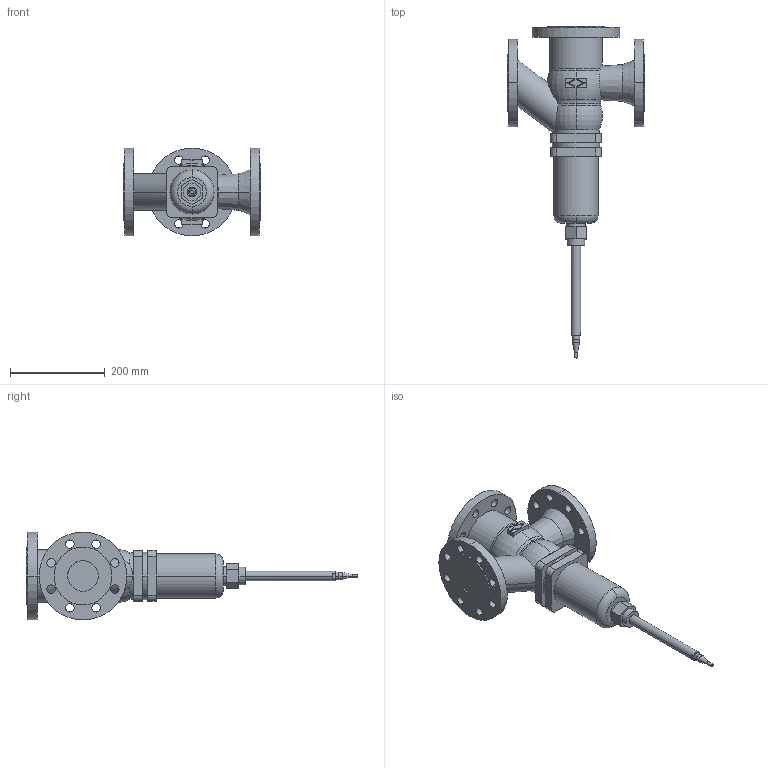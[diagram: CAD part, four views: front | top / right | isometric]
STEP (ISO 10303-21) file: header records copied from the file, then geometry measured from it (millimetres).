
FILE_DESCRIPTION( ( '' ), '1' );
FILE_NAME( 'F:/DE-SHS/TB/OR/04-Sonstiges/daten/files_3d/773-Mischventil/773-Mischventil_PN40/c000006183.stp', '2016-04-11T09:10:49', ( '' ), ( '' ), ' ', ' ', ' ' );
FILE_SCHEMA( ( 'CONFIG_CONTROL_DESIGN' ) );
Length unit declared in the file: millimetre
Products named in the file (1): 1
Bounding box: 290 x 699.44 x 185 mm (x, y, z)
Volume: 5889879.8 mm3; surface area: 396849.1 mm2
Topology: 1 solids, 1 shells, 176 faces, 450 edges, 296 vertices
Faces by surface type: cylinder 94, plane 60, torus 16, cone 6
Entity records: 5888 total; most frequent: CARTESIAN_POINT 1273, DIRECTION 1024, ORIENTED_EDGE 900, EDGE_CURVE 450, AXIS2_PLACEMENT_3D 417, VERTEX_POINT 296, EDGE_LOOP 244, CIRCLE 238
